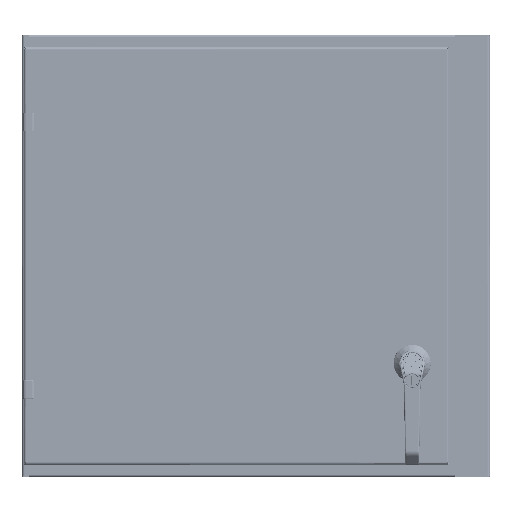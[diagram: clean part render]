
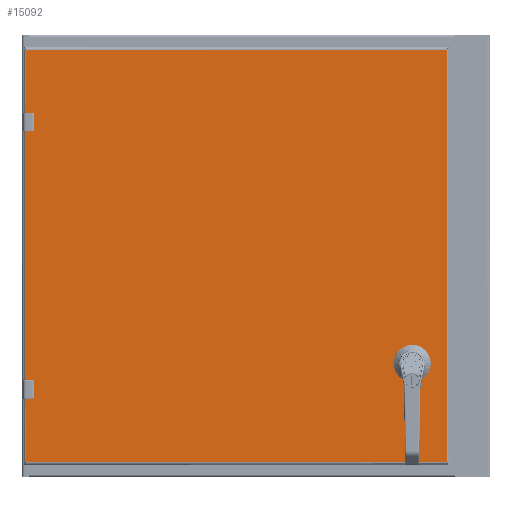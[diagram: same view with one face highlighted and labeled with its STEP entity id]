
A CAD part, top view. The second image highlights one B-rep face of the part: STEP entity #15092.
In plain terms, the highlighted planar face has unit normal (0, 0, 1).
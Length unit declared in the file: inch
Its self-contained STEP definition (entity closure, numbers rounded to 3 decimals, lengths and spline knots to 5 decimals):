
#11901=CARTESIAN_POINT('',(9.525,-6.915,0.));
#11902=DIRECTION('',(0.,0.,1.));
#11903=DIRECTION('',(-1.,0.,0.));
#11904=AXIS2_PLACEMENT_3D('',#11901,#11902,#11903);
#11909=CARTESIAN_POINT('',(9.525,-6.915,0.));
#11910=DIRECTION('',(0.,0.,1.));
#11911=DIRECTION('',(1.,0.,0.));
#11912=AXIS2_PLACEMENT_3D('',#11909,#11910,#11911);
#11917=DIRECTION('',(1.,0.,0.));
#11918=VECTOR('',#11917,0.39715);
#11919=CARTESIAN_POINT('',(9.32642,-5.429,0.));
#11920=LINE('',#11919,#11918);
#11924=CARTESIAN_POINT('',(9.525,-5.825,0.));
#11925=DIRECTION('',(0.,0.,1.));
#11926=DIRECTION('',(-0.448,0.894,0.));
#11927=AXIS2_PLACEMENT_3D('',#11924,#11925,#11926);
#11932=DIRECTION('',(0.,1.,0.));
#11933=VECTOR('',#11932,0.39715);
#11934=CARTESIAN_POINT('',(9.129,-6.02358,0.));
#11935=LINE('',#11934,#11933);
#11939=CARTESIAN_POINT('',(9.525,-5.825,0.));
#11940=DIRECTION('',(0.,0.,1.));
#11941=DIRECTION('',(-0.894,-0.448,0.));
#11942=AXIS2_PLACEMENT_3D('',#11939,#11940,#11941);
#11947=DIRECTION('',(-1.,0.,0.));
#11948=VECTOR('',#11947,0.39715);
#11949=CARTESIAN_POINT('',(9.72358,-6.221,0.));
#11950=LINE('',#11949,#11948);
#11954=CARTESIAN_POINT('',(9.525,-5.825,0.));
#11955=DIRECTION('',(0.,0.,1.));
#11956=DIRECTION('',(0.448,-0.894,0.));
#11957=AXIS2_PLACEMENT_3D('',#11954,#11955,#11956);
#11962=DIRECTION('',(0.,-1.,0.));
#11963=VECTOR('',#11962,0.39715);
#11964=CARTESIAN_POINT('',(9.921,-5.62642,0.));
#11965=LINE('',#11964,#11963);
#11969=CARTESIAN_POINT('',(9.525,-5.825,0.));
#11970=DIRECTION('',(0.,0.,1.));
#11971=DIRECTION('',(0.894,0.448,0.));
#11972=AXIS2_PLACEMENT_3D('',#11969,#11970,#11971);
#11977=DIRECTION('',(1.,0.,0.));
#11978=VECTOR('',#11977,0.339);
#11979=CARTESIAN_POINT('',(-11.3925,-7.595,0.));
#11980=LINE('',#11979,#11978);
#11984=DIRECTION('',(0.,1.,0.));
#11985=VECTOR('',#11984,0.63);
#11986=CARTESIAN_POINT('',(-11.0235,-7.565,0.));
#11987=LINE('',#11986,#11985);
#11991=DIRECTION('',(1.,0.,0.));
#11992=VECTOR('',#11991,0.339);
#11993=CARTESIAN_POINT('',(-11.3925,-6.905,0.));
#11994=LINE('',#11993,#11992);
#11998=DIRECTION('',(1.,0.,0.));
#11999=VECTOR('',#11998,0.339);
#12000=CARTESIAN_POINT('',(-11.3925,6.905,0.));
#12001=LINE('',#12000,#11999);
#12005=DIRECTION('',(0.,1.,0.));
#12006=VECTOR('',#12005,0.63);
#12007=CARTESIAN_POINT('',(-11.0235,6.935,0.));
#12008=LINE('',#12007,#12006);
#12012=DIRECTION('',(1.,0.,0.));
#12013=VECTOR('',#12012,0.339);
#12014=CARTESIAN_POINT('',(-11.3925,7.595,0.));
#12015=LINE('',#12014,#12013);
#12550=CARTESIAN_POINT('',(-11.0535,-6.935,0.));
#12551=DIRECTION('',(0.,0.,-1.));
#12552=DIRECTION('',(0.,1.,0.));
#12553=AXIS2_PLACEMENT_3D('',#12550,#12551,#12552);
#12580=CARTESIAN_POINT('',(-11.0535,-7.565,0.));
#12581=DIRECTION('',(0.,0.,-1.));
#12582=DIRECTION('',(1.,0.,0.));
#12583=AXIS2_PLACEMENT_3D('',#12580,#12581,#12582);
#12633=DIRECTION('',(0.,1.,0.));
#12634=VECTOR('',#12633,13.81);
#12635=CARTESIAN_POINT('',(-11.3925,-6.905,0.));
#12636=LINE('',#12635,#12634);
#12681=DIRECTION('',(0.,1.,0.));
#12682=VECTOR('',#12681,3.585);
#12683=CARTESIAN_POINT('',(-11.3925,7.595,0.));
#12684=LINE('',#12683,#12682);
#12759=DIRECTION('',(0.,1.,0.));
#12760=VECTOR('',#12759,3.585);
#12761=CARTESIAN_POINT('',(-11.3925,-11.18,0.));
#12762=LINE('',#12761,#12760);
#13394=CARTESIAN_POINT('',(-11.0535,6.935,0.));
#13395=DIRECTION('',(0.,0.,-1.));
#13396=DIRECTION('',(1.,0.,0.));
#13397=AXIS2_PLACEMENT_3D('',#13394,#13395,#13396);
#13424=CARTESIAN_POINT('',(-11.0535,7.565,0.));
#13425=DIRECTION('',(0.,0.,-1.));
#13426=DIRECTION('',(0.,1.,0.));
#13427=AXIS2_PLACEMENT_3D('',#13424,#13425,#13426);
#14209=DIRECTION('',(-1.,0.,0.));
#14210=VECTOR('',#14209,22.785);
#14211=CARTESIAN_POINT('',(11.3925,-11.18,0.));
#14212=LINE('',#14211,#14210);
#14301=DIRECTION('',(0.,-1.,0.));
#14302=VECTOR('',#14301,22.36);
#14303=CARTESIAN_POINT('',(11.3925,11.18,0.));
#14304=LINE('',#14303,#14302);
#14511=DIRECTION('',(1.,0.,0.));
#14512=VECTOR('',#14511,22.785);
#14513=CARTESIAN_POINT('',(-11.3925,11.18,0.));
#14514=LINE('',#14513,#14512);
#14645=CARTESIAN_POINT('',(11.3925,11.18,0.));
#14646=CARTESIAN_POINT('',(11.3925,-11.18,0.));
#14647=VERTEX_POINT('',#14645);
#14648=VERTEX_POINT('',#14646);
#14773=CARTESIAN_POINT('',(9.4,-6.915,0.));
#14774=CARTESIAN_POINT('',(9.65,-6.915,0.));
#14775=VERTEX_POINT('',#14773);
#14776=VERTEX_POINT('',#14774);
#14777=CARTESIAN_POINT('',(9.32642,-5.429,0.));
#14778=CARTESIAN_POINT('',(9.72358,-5.429,0.));
#14779=VERTEX_POINT('',#14777);
#14780=VERTEX_POINT('',#14778);
#14781=CARTESIAN_POINT('',(9.921,-5.62642,0.));
#14782=VERTEX_POINT('',#14781);
#14783=CARTESIAN_POINT('',(9.921,-6.02358,0.));
#14784=VERTEX_POINT('',#14783);
#14785=CARTESIAN_POINT('',(9.72358,-6.221,0.));
#14786=VERTEX_POINT('',#14785);
#14787=CARTESIAN_POINT('',(9.32642,-6.221,0.));
#14788=VERTEX_POINT('',#14787);
#14789=CARTESIAN_POINT('',(9.129,-6.02358,0.));
#14790=VERTEX_POINT('',#14789);
#14791=CARTESIAN_POINT('',(9.129,-5.62642,0.));
#14792=VERTEX_POINT('',#14791);
#14822=CARTESIAN_POINT('',(-11.3925,11.18,0.));
#14824=VERTEX_POINT('',#14822);
#14829=CARTESIAN_POINT('',(-11.3925,-11.18,0.));
#14831=VERTEX_POINT('',#14829);
#14933=CARTESIAN_POINT('',(-11.3925,7.595,0.));
#14935=VERTEX_POINT('',#14933);
#14937=CARTESIAN_POINT('',(-11.3925,6.905,0.));
#14939=VERTEX_POINT('',#14937);
#14949=CARTESIAN_POINT('',(-11.3925,-6.905,0.));
#14951=VERTEX_POINT('',#14949);
#14953=CARTESIAN_POINT('',(-11.3925,-7.595,0.));
#14955=VERTEX_POINT('',#14953);
#14965=CARTESIAN_POINT('',(-11.0535,7.595,0.));
#14967=VERTEX_POINT('',#14965);
#14969=CARTESIAN_POINT('',(-11.0235,7.565,0.));
#14971=VERTEX_POINT('',#14969);
#14973=CARTESIAN_POINT('',(-11.0235,6.935,0.));
#14975=VERTEX_POINT('',#14973);
#14977=CARTESIAN_POINT('',(-11.0535,6.905,0.));
#14979=VERTEX_POINT('',#14977);
#14997=CARTESIAN_POINT('',(-11.0535,-6.905,0.));
#14999=VERTEX_POINT('',#14997);
#15001=CARTESIAN_POINT('',(-11.0235,-6.935,0.));
#15003=VERTEX_POINT('',#15001);
#15005=CARTESIAN_POINT('',(-11.0235,-7.565,0.));
#15007=VERTEX_POINT('',#15005);
#15009=CARTESIAN_POINT('',(-11.0535,-7.595,0.));
#15011=VERTEX_POINT('',#15009);
#15029=CARTESIAN_POINT('',(0.,0.,0.));
#15030=DIRECTION('',(0.,0.,-1.));
#15031=DIRECTION('',(1.,0.,0.));
#15032=AXIS2_PLACEMENT_3D('',#15029,#15030,#15031);
#15033=PLANE('',#15032);
#15035=ORIENTED_EDGE('',*,*,#15034,.T.);
#15037=ORIENTED_EDGE('',*,*,#15036,.T.);
#15039=ORIENTED_EDGE('',*,*,#15038,.T.);
#15041=ORIENTED_EDGE('',*,*,#15040,.F.);
#15043=ORIENTED_EDGE('',*,*,#15042,.T.);
#15045=ORIENTED_EDGE('',*,*,#15044,.F.);
#15047=ORIENTED_EDGE('',*,*,#15046,.F.);
#15049=ORIENTED_EDGE('',*,*,#15048,.T.);
#15051=ORIENTED_EDGE('',*,*,#15050,.T.);
#15053=ORIENTED_EDGE('',*,*,#15052,.F.);
#15055=ORIENTED_EDGE('',*,*,#15054,.T.);
#15057=ORIENTED_EDGE('',*,*,#15056,.F.);
#15059=ORIENTED_EDGE('',*,*,#15058,.F.);
#15061=ORIENTED_EDGE('',*,*,#15060,.T.);
#15063=ORIENTED_EDGE('',*,*,#15062,.T.);
#15065=ORIENTED_EDGE('',*,*,#15064,.T.);
#15066=EDGE_LOOP('',(#15035,#15037,#15039,#15041,#15043,#15045,#15047,#15049,
#15051,#15053,#15055,#15057,#15059,#15061,#15063,#15065));
#15067=FACE_OUTER_BOUND('',#15066,.F.);
#15069=ORIENTED_EDGE('',*,*,#15068,.F.);
#15071=ORIENTED_EDGE('',*,*,#15070,.T.);
#15073=ORIENTED_EDGE('',*,*,#15072,.F.);
#15075=ORIENTED_EDGE('',*,*,#15074,.T.);
#15077=ORIENTED_EDGE('',*,*,#15076,.F.);
#15079=ORIENTED_EDGE('',*,*,#15078,.T.);
#15081=ORIENTED_EDGE('',*,*,#15080,.F.);
#15083=ORIENTED_EDGE('',*,*,#15082,.T.);
#15084=EDGE_LOOP('',(#15069,#15071,#15073,#15075,#15077,#15079,#15081,#15083));
#15085=FACE_BOUND('',#15084,.F.);
#15087=ORIENTED_EDGE('',*,*,#15086,.T.);
#15089=ORIENTED_EDGE('',*,*,#15088,.T.);
#15090=EDGE_LOOP('',(#15087,#15089));
#15091=FACE_BOUND('',#15090,.F.);
#11905=CIRCLE('',#11904,0.125);
#11913=CIRCLE('',#11912,0.125);
#11928=CIRCLE('',#11927,0.443);
#11943=CIRCLE('',#11942,0.443);
#11958=CIRCLE('',#11957,0.443);
#11973=CIRCLE('',#11972,0.443);
#12554=CIRCLE('',#12553,0.03);
#12584=CIRCLE('',#12583,0.03);
#13398=CIRCLE('',#13397,0.03);
#13428=CIRCLE('',#13427,0.03);
#15034=EDGE_CURVE('',#14648,#14831,#14212,.T.);
#15036=EDGE_CURVE('',#14831,#14955,#12762,.T.);
#15038=EDGE_CURVE('',#14955,#15011,#11980,.T.);
#15040=EDGE_CURVE('',#15007,#15011,#12584,.T.);
#15042=EDGE_CURVE('',#15007,#15003,#11987,.T.);
#15044=EDGE_CURVE('',#14999,#15003,#12554,.T.);
#15046=EDGE_CURVE('',#14951,#14999,#11994,.T.);
#15048=EDGE_CURVE('',#14951,#14939,#12636,.T.);
#15050=EDGE_CURVE('',#14939,#14979,#12001,.T.);
#15052=EDGE_CURVE('',#14975,#14979,#13398,.T.);
#15054=EDGE_CURVE('',#14975,#14971,#12008,.T.);
#15056=EDGE_CURVE('',#14967,#14971,#13428,.T.);
#15058=EDGE_CURVE('',#14935,#14967,#12015,.T.);
#15060=EDGE_CURVE('',#14935,#14824,#12684,.T.);
#15062=EDGE_CURVE('',#14824,#14647,#14514,.T.);
#15064=EDGE_CURVE('',#14647,#14648,#14304,.T.);
#15068=EDGE_CURVE('',#14779,#14780,#11920,.T.);
#15070=EDGE_CURVE('',#14779,#14792,#11928,.T.);
#15072=EDGE_CURVE('',#14790,#14792,#11935,.T.);
#15074=EDGE_CURVE('',#14790,#14788,#11943,.T.);
#15076=EDGE_CURVE('',#14786,#14788,#11950,.T.);
#15078=EDGE_CURVE('',#14786,#14784,#11958,.T.);
#15080=EDGE_CURVE('',#14782,#14784,#11965,.T.);
#15082=EDGE_CURVE('',#14782,#14780,#11973,.T.);
#15086=EDGE_CURVE('',#14775,#14776,#11905,.T.);
#15088=EDGE_CURVE('',#14776,#14775,#11913,.T.);
#15092=ADVANCED_FACE('',(#15067,#15085,#15091),#15033,.F.);
